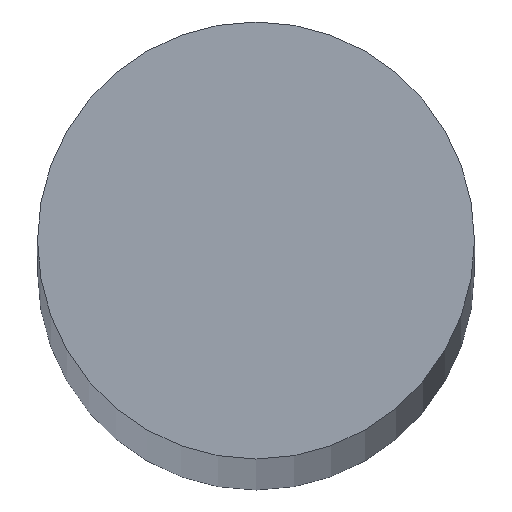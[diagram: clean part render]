
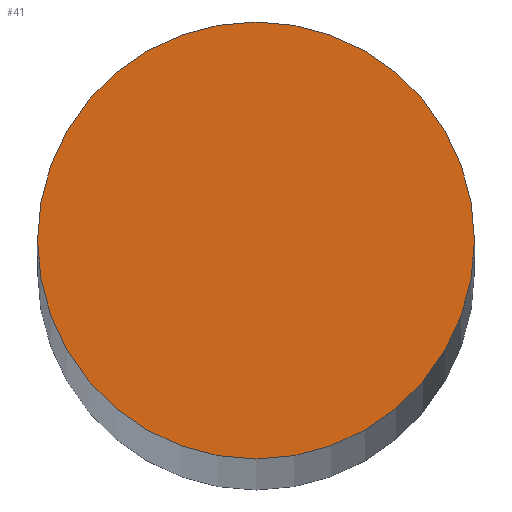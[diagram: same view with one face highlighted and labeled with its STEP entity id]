
A CAD part, top view. The second image highlights one B-rep face of the part: STEP entity #41.
In plain terms, the highlighted planar face has unit normal (0, 0, 1).
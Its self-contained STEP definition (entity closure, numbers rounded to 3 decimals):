
#16=PLANE('',#66);
#19=FACE_OUTER_BOUND('',#22,.T.);
#22=EDGE_LOOP('',(#37));
#25=CIRCLE('',#63,8.);
#27=VERTEX_POINT('',#82);
#29=EDGE_CURVE('',#27,#27,#25,.T.);
#37=ORIENTED_EDGE('',*,*,#29,.T.);
#41=ADVANCED_FACE('',(#19),#16,.T.);
#63=AXIS2_PLACEMENT_3D('',#83,#71,#72);
#66=AXIS2_PLACEMENT_3D('',#88,#78,#79);
#71=DIRECTION('center_axis',(0.,0.,1.));
#72=DIRECTION('ref_axis',(-1.,0.,0.));
#78=DIRECTION('center_axis',(0.,0.,1.));
#79=DIRECTION('ref_axis',(1.,0.,0.));
#82=CARTESIAN_POINT('',(8.,0.,650.));
#83=CARTESIAN_POINT('Origin',(0.,0.,650.));
#88=CARTESIAN_POINT('Origin',(0.,0.,
650.));
